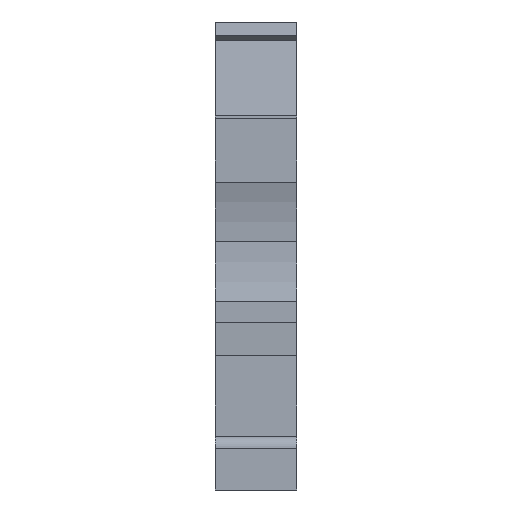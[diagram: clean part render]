
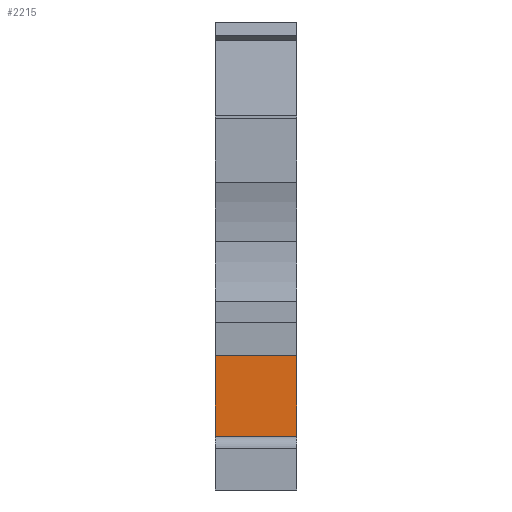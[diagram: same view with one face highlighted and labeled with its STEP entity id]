
A CAD part, front view. The second image highlights one B-rep face of the part: STEP entity #2215.
In plain terms, the highlighted planar face has unit normal (0, -1, 0).
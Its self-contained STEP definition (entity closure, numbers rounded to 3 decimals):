
#68=CARTESIAN_POINT('',(0.,3.6,1.5));
#69=VERTEX_POINT('',#68);
#76=CARTESIAN_POINT('',(0.,3.6,10.1));
#77=VERTEX_POINT('',#76);
#78=CARTESIAN_POINT('',(0.,3.6,10.1));
#79=DIRECTION('',(0.,0.,-1.));
#80=VECTOR('',#79,8.6);
#81=LINE('',#78,#80);
#82=EDGE_CURVE('',#77,#69,#81,.T.);
#2185=CARTESIAN_POINT('',(0.,3.6,10.1));
#2186=DIRECTION('',(0.,1.,0.));
#2187=DIRECTION('',(-1.,0.,0.));
#2188=AXIS2_PLACEMENT_3D('',#2185,#2186,#2187);
#2189=PLANE('',#2188);
#2190=CARTESIAN_POINT('',(6.15,3.6,10.1));
#2191=VERTEX_POINT('',#2190);
#2192=CARTESIAN_POINT('',(6.15,3.6,1.5));
#2193=VERTEX_POINT('',#2192);
#2194=CARTESIAN_POINT('',(6.15,3.6,10.1));
#2195=DIRECTION('',(-0.,0.,-1.));
#2196=VECTOR('',#2195,8.6);
#2197=LINE('',#2194,#2196);
#2198=EDGE_CURVE('',#2191,#2193,#2197,.T.);
#2199=ORIENTED_EDGE('',*,*,#2198,.F.);
#2200=CARTESIAN_POINT('',(0.,3.6,10.1));
#2201=DIRECTION('',(1.,-0.,-0.));
#2202=VECTOR('',#2201,6.15);
#2203=LINE('',#2200,#2202);
#2204=EDGE_CURVE('',#77,#2191,#2203,.T.);
#2205=ORIENTED_EDGE('',*,*,#2204,.F.);
#2206=ORIENTED_EDGE('',*,*,#82,.T.);
#2207=CARTESIAN_POINT('',(0.,3.6,1.5));
#2208=DIRECTION('',(1.,-0.,-0.));
#2209=VECTOR('',#2208,6.15);
#2210=LINE('',#2207,#2209);
#2211=EDGE_CURVE('',#69,#2193,#2210,.T.);
#2212=ORIENTED_EDGE('',*,*,#2211,.T.);
#2213=EDGE_LOOP('',(#2199,#2205,#2206,#2212));
#2214=FACE_BOUND('',#2213,.T.);
#2215=ADVANCED_FACE('',(#2214),#2189,.F.);
